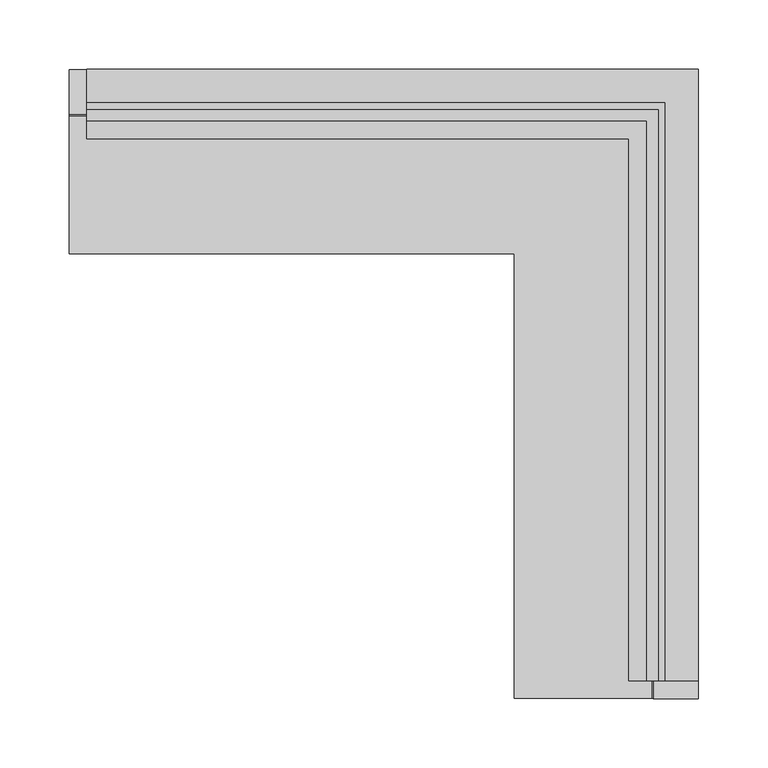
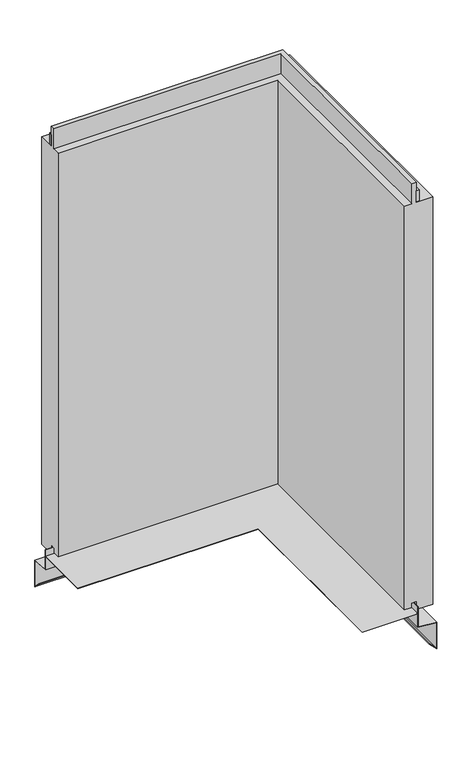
"""IFC4 building model written with IfcOpenShell, lengths in millimetres: plate geometry, Trimo_Qbiss Screen_L Corner Panel-HORIZONTAL : HR - B."""

from ifc_helpers import new_model, si_unit, frame, origin, place, context, project, spatial, polyline, outline, extrude, faceted_brep, source, transform, mapped, element, save


def plate_eb0d2815(model_context):
    return source(origin(), model_context, "Body", "SolidModel", [
        faceted_brep([(-176.25, 66.7, 14.0835797), (242.95, 66.7, 14.0835797), (242.95, -352.5, 14.0835797), (243.75, -352.5, 14.0835797), (243.75, 67.5, 14.0835797), (-176.25, 67.5, 14.0835797), (243.75, 67.5, -23.0), (-176.25, 67.5, -23.0), (276.25, 100.0, -25.8433816), (-176.25, 100.0, -25.8433816), (276.25, 100.0, -76.0), (-176.25, 100.0, -76.0), (263.4009533, 87.1509533, -63.1509533), (-176.25, 87.1509533, -63.1509533), (263.9666388, 87.7166388, -62.5852679), (-176.25, 87.7166388, -62.5852679), (275.45, 99.2, -74.0686292), (-176.25, 99.2, -74.0686292), (275.45, 99.2, -26.5764465), (-176.25, 99.2, -26.5764465), (242.95, 66.7, -23.7330649), (-176.25, 66.7, -23.7330649), (242.95, 66.7, 1.0), (-176.25, 66.7, 1.0), (242.95, -352.5, 1.0), (143.75, -352.5, 1.0), (143.75, -32.5, 1.0), (-176.25, -32.5, 1.0), (-176.25, -32.5, 1.8), (143.75, -32.5, 1.8), (143.75, -352.5, 1.8), (242.95, -352.5, 1.8), (242.95, 66.7, 1.8), (-176.25, 66.7, 1.8), (243.75, -352.5, -23.0), (276.25, -352.5, -25.8433816), (276.25, -352.5, -76.0), (263.4009533, -352.5, -63.1509533), (263.9666388, -352.5, -62.5852679), (275.45, -352.5, -74.0686292), (275.45, -352.5, -26.5764465), (242.95, -352.5, -23.7330649)], [[[0, 1, 2, 3, 4, 5]], [[4, 6, 7, 5]], [[6, 8, 9, 7]], [[8, 10, 11, 9]], [[10, 12, 13, 11]], [[12, 14, 15, 13]], [[14, 16, 17, 15]], [[16, 18, 19, 17]], [[18, 20, 21, 19]], [[20, 22, 23, 21]], [[23, 22, 24, 25, 26, 27]], [[28, 29, 30, 31, 32, 33]], [[32, 1, 0, 33]], [[6, 4, 3, 34]], [[8, 6, 34, 35]], [[10, 8, 35, 36]], [[12, 10, 36, 37]], [[14, 12, 37, 38]], [[16, 14, 38, 39]], [[18, 16, 39, 40]], [[20, 18, 40, 41]], [[22, 20, 41, 24]], [[1, 32, 31, 2]], [[0, 5, 7, 9, 11, 13, 15, 17, 19, 21, 23, 27, 28, 33]], [[3, 2, 31, 30, 25, 24, 41, 40, 39, 38, 37, 36, 35, 34]], [[26, 29, 28, 27]], [[29, 26, 25, 30]]]),
        extrude(outline(polyline([(-163.75, 71.0), (-163.75, 76.0), (252.25, 76.0), (252.25, -340.0), (247.25, -340.0), (247.25, 71.0), (-163.75, 71.0)])), frame((0.0, 0.0, 765.95), z_axis=(0.0, 0.0, 1.0), x_axis=(1.0, 0.0, 0.0)), (0.0, 0.0, 1.0), 21.0),
        faceted_brep([(-163.75, 71.0, 764.95), (-163.75, 100.0, 764.95), (-163.75, 100.0, 0.0), (-163.75, 72.0, 0.0), (-163.75, 72.0, 15.5), (-163.75, 62.0, 15.5), (-163.75, 62.0, 7.0), (-163.75, 50.0, 7.0), (-163.75, 50.0, 764.95), (-163.75, 63.0, 764.95), (-163.75, 63.0, 802.45), (-163.75, 71.0, 802.45), (247.25, 71.0, 764.95), (247.25, -340.0, 764.95), (276.25, -340.0, 764.95), (276.25, 100.0, 764.95), (276.25, 100.0, 0.0), (276.25, -340.0, 0.0), (248.25, -340.0, 0.0), (248.25, 72.0, 0.0), (248.25, 72.0, 15.5), (248.25, -340.0, 15.5), (238.25, -340.0, 15.5), (238.25, 62.0, 15.5), (238.25, 62.0, 7.0), (238.25, -340.0, 7.0), (226.25, -340.0, 7.0), (226.25, 50.0, 7.0), (226.25, 50.0, 764.95), (226.25, -340.0, 764.95), (239.25, -340.0, 764.95), (239.25, 63.0, 764.95), (239.25, 63.0, 802.45), (239.25, -340.0, 802.45), (247.25, -340.0, 802.45), (247.25, 71.0, 802.45)], [[[0, 1, 2, 3, 4, 5, 6, 7, 8, 9, 10, 11]], [[1, 0, 12, 13, 14, 15]], [[2, 1, 15, 16]], [[3, 2, 16, 17, 18, 19]], [[4, 3, 19, 20]], [[5, 4, 20, 21, 22, 23]], [[6, 5, 23, 24]], [[7, 6, 24, 25, 26, 27]], [[8, 7, 27, 28]], [[9, 8, 28, 29, 30, 31]], [[10, 9, 31, 32]], [[11, 10, 32, 33, 34, 35]], [[0, 11, 35, 12]], [[13, 34, 33, 30, 29, 26, 25, 22, 21, 18, 17, 14]], [[16, 15, 14, 17]], [[20, 19, 18, 21]], [[24, 23, 22, 25]], [[28, 27, 26, 29]], [[32, 31, 30, 33]], [[12, 35, 34, 13]]]),
    ])


if __name__ == "__main__":
    model = new_model("IFC4")
    model_context = context("Model", 3, world=origin())
    ifc_project = project(units=[si_unit("LENGTHUNIT", "METRE", prefix="MILLI")], contexts=[model_context])
    site = spatial("IfcSite", under=ifc_project)
    building = spatial("IfcBuilding", under=site)
    placement = place(None, origin())
    plate_shape = plate_eb0d2815(model_context)
    element("IfcPlate", 1, ObjectType="Trimo_Qbiss Screen_L Corner Panel-HORIZONTAL : HR - B", at=placement, inside=building, context=model_context, shape_type="MappedRepresentation", body=[
        mapped(plate_shape, transform((0.0, 0.0, 0.0), x_axis=(1.0, 0.0, 0.0), y_axis=(0.0, 1.0, 0.0), z_axis=(0.0, 0.0, 1.0))),
    ])
    save(model, "model.ifc")
